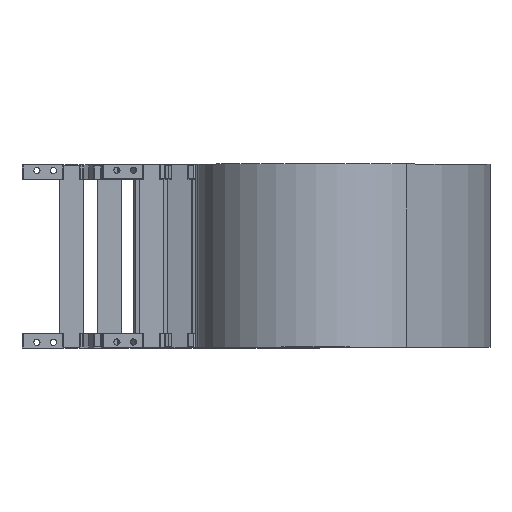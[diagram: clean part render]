
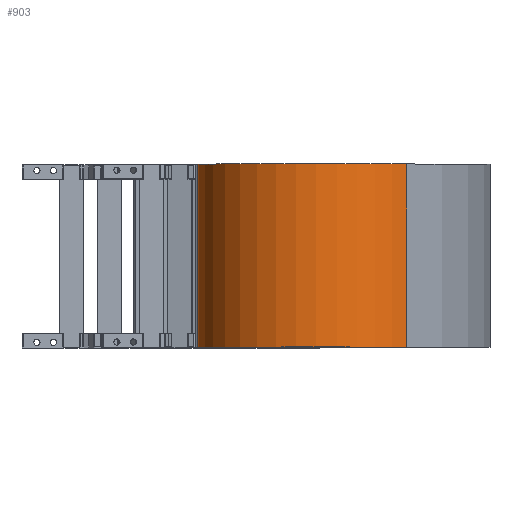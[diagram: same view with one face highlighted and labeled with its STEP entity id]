
A CAD part, top view. The second image highlights one B-rep face of the part: STEP entity #903.
In plain terms, the highlighted cylindrical face has radius 115 mm (diameter 230 mm), a partial arc.
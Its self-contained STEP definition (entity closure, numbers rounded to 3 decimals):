
#903 = ADVANCED_FACE( '', ( #1914 ), #1915, .T. );
#1914 = FACE_OUTER_BOUND( '', #3042, .T. );
#1915 = CYLINDRICAL_SURFACE( '', #3043, 115. );
#3042 = EDGE_LOOP( '', ( #5571, #5572, #5573, #5574 ) );
#3043 = AXIS2_PLACEMENT_3D( '', #5575, #5576, #5577 );
#5571 = ORIENTED_EDGE( '', *, *, #7730, .T. );
#5572 = ORIENTED_EDGE( '', *, *, #7076, .F. );
#5573 = ORIENTED_EDGE( '', *, *, #7341, .F. );
#5574 = ORIENTED_EDGE( '', *, *, #7120, .T. );
#5575 = CARTESIAN_POINT( '', ( 180.522, 89., 150.456 ) );
#5576 = DIRECTION( '', ( 0., 1., 0. ) );
#5577 = DIRECTION( '', ( 0., 0., -1. ) );
#7076 = EDGE_CURVE( '', #8572, #8567, #8574, .T. );
#7120 = EDGE_CURVE( '', #8653, #8650, #8654, .T. );
#7341 = EDGE_CURVE( '', #8653, #8572, #9019, .T. );
#7730 = EDGE_CURVE( '', #8650, #8567, #9642, .T. );
#8567 = VERTEX_POINT( '', #10727 );
#8572 = VERTEX_POINT( '', #10733 );
#8574 = LINE( '', #10735, #10736 );
#8650 = VERTEX_POINT( '', #10837 );
#8653 = VERTEX_POINT( '', #10840 );
#8654 = LINE( '', #10841, #10842 );
#9019 = CIRCLE( '', #11355, 115. );
#9642 = CIRCLE( '', #12231, 115. );
#10727 = CARTESIAN_POINT( '', ( 268.862, -89., 224.083 ) );
#10733 = CARTESIAN_POINT( '', ( 268.862, 89., 224.083 ) );
#10735 = CARTESIAN_POINT( '', ( 268.862, 89., 224.083 ) );
#10736 = VECTOR( '', #13385, 1000. );
#10837 = CARTESIAN_POINT( '', ( 92.181, -89., 76.828 ) );
#10840 = CARTESIAN_POINT( '', ( 92.181, 89., 76.828 ) );
#10841 = CARTESIAN_POINT( '', ( 92.181, 89., 76.828 ) );
#10842 = VECTOR( '', #13438, 1000. );
#11355 = AXIS2_PLACEMENT_3D( '', #13674, #13675, #13676 );
#12231 = AXIS2_PLACEMENT_3D( '', #14122, #14123, #14124 );
#13385 = DIRECTION( '', ( 0., -1., 0. ) );
#13438 = DIRECTION( '', ( 0., -1., 0. ) );
#13674 = CARTESIAN_POINT( '', ( 180.522, 89., 150.456 ) );
#13675 = DIRECTION( '', ( 0., 1., 0. ) );
#13676 = DIRECTION( '', ( 1., 0., 0. ) );
#14122 = CARTESIAN_POINT( '', ( 180.522, -89., 150.456 ) );
#14123 = DIRECTION( '', ( 0., 1., 0. ) );
#14124 = DIRECTION( '', ( 1., 0., 0. ) );
